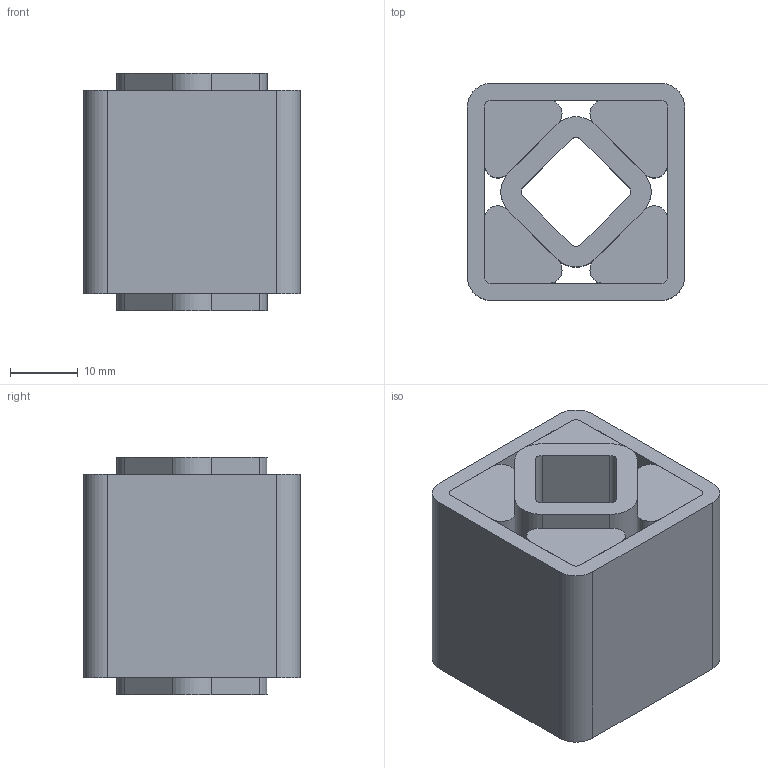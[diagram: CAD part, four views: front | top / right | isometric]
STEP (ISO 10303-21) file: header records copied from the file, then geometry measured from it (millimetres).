
FILE_DESCRIPTION((''),'2;1');
FILE_NAME('D:\ROSTA\Gummifederelemente\3D\DR-S18x30_01021007.stp','2005-02-02T03:44:09',('Administrator'),(''),'Autodesk Inventor 8','Autodesk Inventor 8','');
FILE_SCHEMA(('AUTOMOTIVE_DESIGN { 1 0 10303 214 1 1 1 1 }'));
Length unit declared in the file: millimetre
Products named in the file (4): Baugruppe1; 4.4.3727-001; 4.4.3727-002; 4.4.3727-003
Assembly tree (6 placements, depth 2):
  Baugruppe1
    4.4.3727-001
    4.4.3727-002
    4.4.3727-003  x4
Bounding box: 32 x 32 x 35 mm (x, y, z)
Volume: 25418.7 mm3; surface area: 16995.8 mm2
Topology: 6 solids, 6 shells, 68 faces, 168 edges, 112 vertices
Faces by surface type: plane 40, cylinder 28
Entity records: 1491 total; most frequent: DIRECTION 260, CARTESIAN_POINT 244, ORIENTED_EDGE 228, EDGE_CURVE 114, AXIS2_PLACEMENT_3D 92, VERTEX_POINT 76, VECTOR 76, LINE 76
